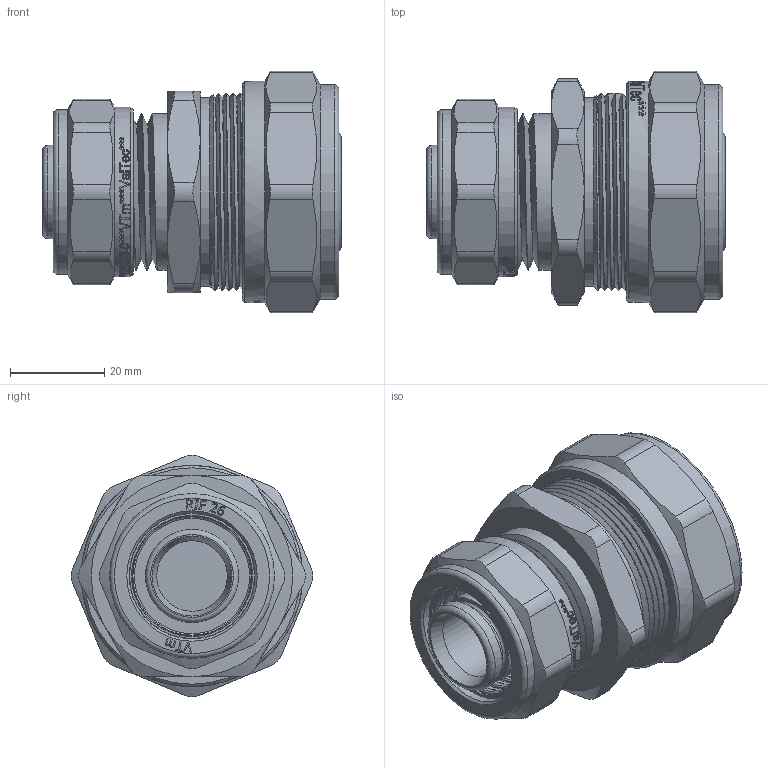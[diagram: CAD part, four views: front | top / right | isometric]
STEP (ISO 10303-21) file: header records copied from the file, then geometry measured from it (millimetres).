
FILE_DESCRIPTION(/* description */ (''),/* implementation_level */ '2;1');
FILE_NAME(/* name */ 'E:\Артём\00000\Работа удаленка\Обжимные фитинги\VTm.303.N.003226.stp',/* time_stamp */ '2020-06-10T15:52:07+03:00',/* author */ ('BeN_GaN'),/* organization */ (''),/* preprocessor_version */ 'ST-DEVELOPER v18',/* originating_system */ 'Autodesk Inventor 2020',/* authorisation */ '');
FILE_SCHEMA (('AUTOMOTIVE_DESIGN { 1 0 10303 214 3 1 1 }'));
Products named in the file (1): VTm.303.N.003226
Bounding box: 63.5 x 51.3 x 51.3 mm (x, y, z)
Volume: 55769.3 mm3; surface area: 31457.7 mm2
Topology: 1 solids, 1 shells, 1319 faces, 3740 edges, 2529 vertices
Faces by surface type: bspline 739, plane 332, cylinder 159, torus 48, cone 41
Full cylindrical faces by diameter (mm): 15 x1, 17.4 x2, 19.8 x5, 20 x1, 23.4 x2, 24.516 x4, 25.435 x5, 25.75 x5, 26.2 x1, 26.7 x1, 28.5 x1, 28.7 x2, 30.5 x1, 30.538 x4, 31.683 x5, 32.2 x1, 32.7 x1, 33.3 x2, 35 x1, 35.5 x1, 36 x1, 40 x1, 40.4 x4, 40.5 x1, 42 x5, 45.5 x1, 47 x1
Entity records: 56270 total; most frequent: CARTESIAN_POINT 26821, ORIENTED_EDGE 7480, DIRECTION 3811, EDGE_CURVE 3740, VERTEX_POINT 2529, B_SPLINE_CURVE_WITH_KNOTS 1605, LINE 1509, VECTOR 1509
